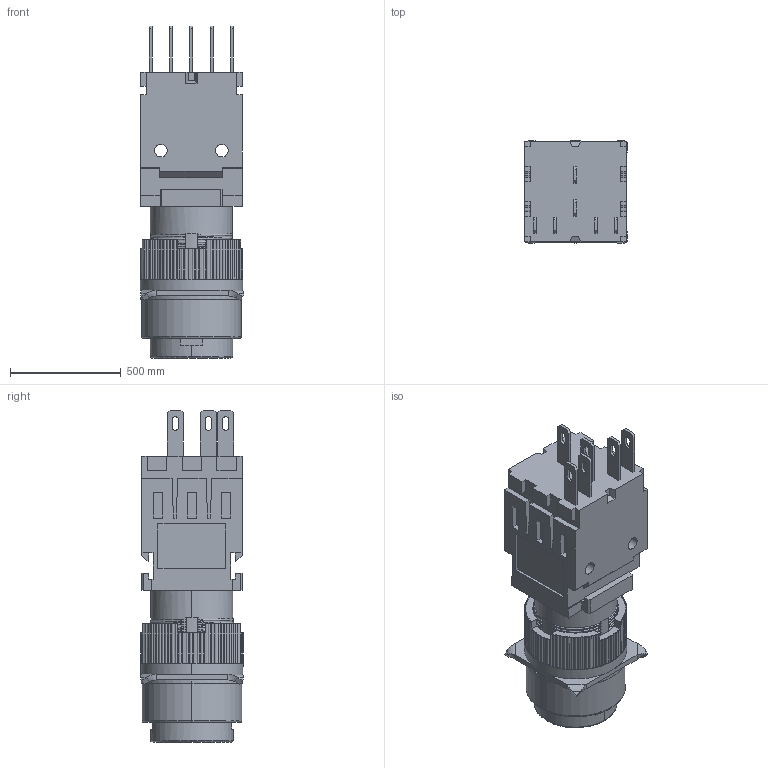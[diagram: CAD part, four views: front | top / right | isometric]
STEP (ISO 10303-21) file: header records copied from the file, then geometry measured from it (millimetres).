
FILE_DESCRIPTION((''),'2;1');
FILE_NAME('ASM0023_ASM','2016-06-03T',('Administrator'),(''),'PRO/ENGINEER BY PARAMETRIC TECHNOLOGY CORPORATION, 2012360','PRO/ENGINEER BY PARAMETRIC TECHNOLOGY CORPORATION, 2012360','');
FILE_SCHEMA(('CONFIG_CONTROL_DESIGN'));
Length unit declared in the file: inch
Products named in the file (1): ASM0023_ASM
Bounding box: 467.82 x 465.73 x 1499.97 mm (x, y, z)
Volume: 209821561.2 mm3; surface area: 4365781.2 mm2
Topology: 1 solids, 6 shells, 917 faces, 2494 edges, 1602 vertices
Faces by surface type: plane 444, cylinder 350, bspline 117, torus 4, sphere 2
Entity records: 46961 total; most frequent: CARTESIAN_POINT 24647, ORIENTED_EDGE 4984, DIRECTION 4204, EDGE_CURVE 2492, VERTEX_POINT 1602, AXIS2_PLACEMENT_3D 1460, VECTOR 1284, LINE 1284
